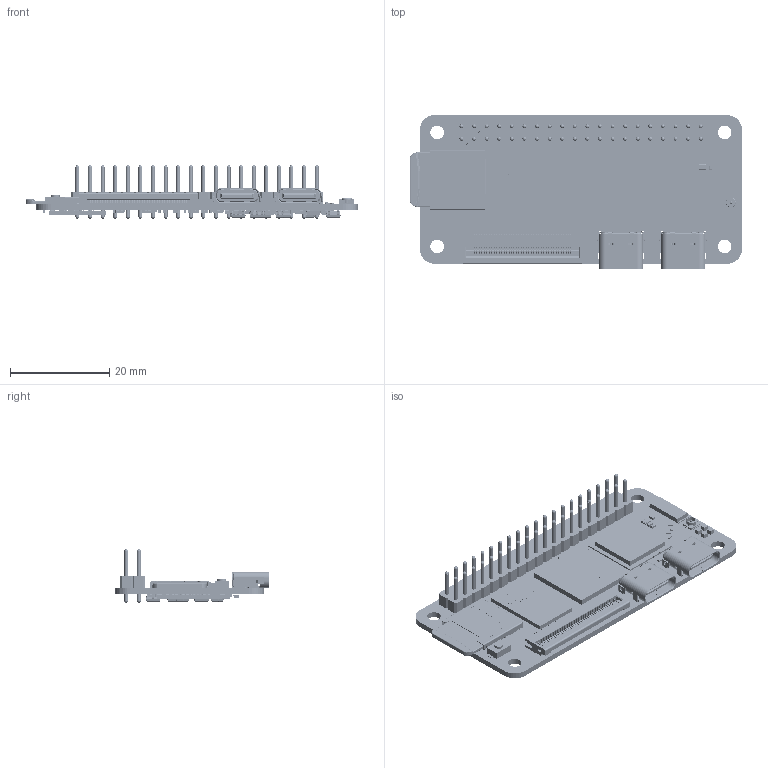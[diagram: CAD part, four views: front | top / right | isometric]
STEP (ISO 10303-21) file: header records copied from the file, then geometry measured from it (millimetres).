
FILE_DESCRIPTION(('Open CASCADE Model'),'2;1');
FILE_NAME('Open CASCADE Shape Model','2025-05-11T15:47:25',('Author'),( 'Open CASCADE'),'Open CASCADE STEP processor 7.5','Open CASCADE 7.5' ,'Unknown');
FILE_SCHEMA(('AUTOMOTIVE_DESIGN { 1 0 10303 214 1 1 1 1 }'));
Length unit declared in the file: millimetre
Products named in the file (341): PCB; Board; Open CASCADE STEP translator 7.5 1.1.1; R58; R 0402; LOGOԲ; R52; D4; SOD-523; LOGOԲ£­£°.£±£µ; D3; U15; SOT23_3; U14; R57; R56; R55; U11; SOT23_5; R37; ANT2; 6357811424; R44; R18; R20; R23; R19; C67; C 0402; R35; C49; C50; C51; C52; R36; C26; C39; C36; C37; C40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
Assembly tree (685 placements, depth 4):
  PCB
    Board
      Open CASCADE STEP translator 7.5 1.1.1
    R58
      R 0402
        R 0402
        LOGOԲ
    R52
      R 0402
        R 0402
        LOGOԲ
    D4
      SOD-523
        SOD-523
        LOGOԲ£­£°.£±£µ
    D3
      SOD-523
        SOD-523
        LOGOԲ£­£°.£±£µ
    U15
      SOT23_3
    U14
      SOT23_3
    R57
      R 0402
        R 0402
        LOGOԲ
    R56
      R 0402
        R 0402
        LOGOԲ
    R55
      R 0402
        R 0402
        LOGOԲ
    U11
      SOT23_5
    R37
      R 0402
        R 0402
        LOGOԲ
    ANT2
      6357811424
    R44
      R 0402
        R 0402
        LOGOԲ
    R18
      R 0402
        R 0402
        LOGOԲ
    R20
      R 0402
        R 0402
        LOGOԲ
    R23
      R 0402
        R 0402
        LOGOԲ
    R19
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Bounding box: 66.97 x 31.03 x 10.8 mm (x, y, z)
Volume: 4586.9 mm3; surface area: 13418 mm2
Topology: 3034 solids, 3034 shells, 36954 faces, 89313 edges, 58384 vertices
Faces by surface type: plane 21520, bspline 8700, cylinder 5713, sphere 916, cone 61, torus 40, revolution 4
Full cylindrical faces by diameter (mm): 0.4 x1, 0.65 x4, 0.8 x40, 0.9 x40, 1.8 x1, 2.75 x4
Entity records: 329420 total; most frequent: CARTESIAN_POINT 102154, ORIENTED_EDGE 44014, DIRECTION 37923, EDGE_CURVE 22007, LINE 15059, VECTOR 15059, VERTEX_POINT 14682, AXIS2_PLACEMENT_3D 11430
